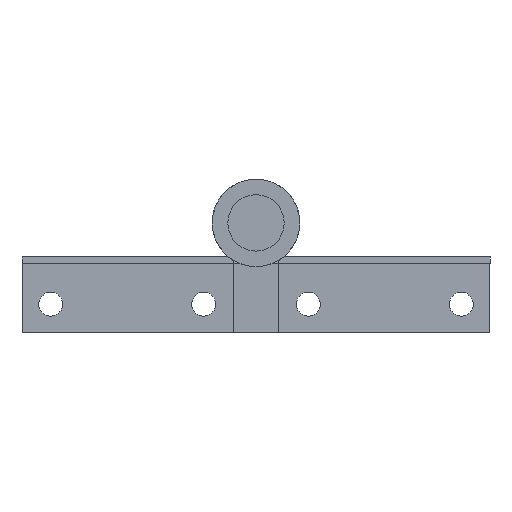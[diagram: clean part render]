
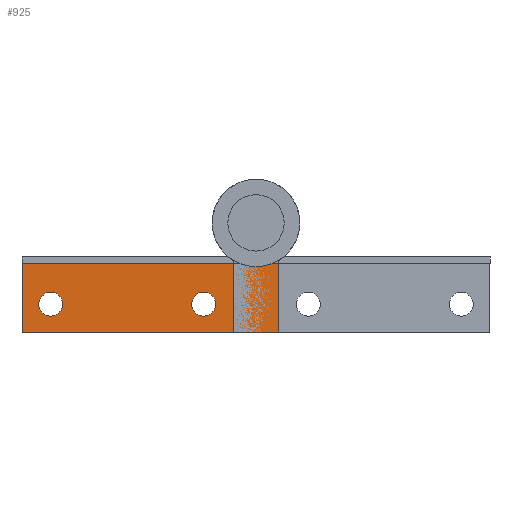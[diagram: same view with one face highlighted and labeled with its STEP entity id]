
A CAD part, front view. The second image highlights one B-rep face of the part: STEP entity #925.
In plain terms, the highlighted planar face has unit normal (0, -1, 0).
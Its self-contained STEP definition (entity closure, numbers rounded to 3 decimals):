
#149 = PLANE ( 'NONE',  #1721 ) ;
#153 = CARTESIAN_POINT ( 'NONE',  ( 9.15, 629.2, -23. ) ) ;
#154 = DIRECTION ( 'NONE',  ( 0., 1., 0. ) ) ;
#155 = DIRECTION ( 'NONE',  ( 1., 0., 0. ) ) ;
#240 = CARTESIAN_POINT ( 'NONE',  ( -42.95, 629.2, -17. ) ) ;
#241 = DIRECTION ( 'NONE',  ( 0., 1., 0. ) ) ;
#242 = DIRECTION ( 'NONE',  ( 1., 0., 0. ) ) ;
#301 = CARTESIAN_POINT ( 'NONE',  ( -10.95, 629.2, -17. ) ) ;
#302 = DIRECTION ( 'NONE',  ( 0., 1., 0. ) ) ;
#303 = DIRECTION ( 'NONE',  ( 1., 0., 0. ) ) ;
#356 = CARTESIAN_POINT ( 'NONE',  ( -48.95, 629.2, -23. ) ) ;
#357 = DIRECTION ( 'NONE',  ( 0., 0., -1. ) ) ;
#398 = CARTESIAN_POINT ( 'NONE',  ( -10.95, 629.2, -17. ) ) ;
#409 = DIRECTION ( 'NONE',  ( 0., 1., 0. ) ) ;
#410 = DIRECTION ( 'NONE',  ( 1., 0., 0. ) ) ;
#416 = CARTESIAN_POINT ( 'NONE',  ( 9.15, 629.2, -23. ) ) ;
#417 = DIRECTION ( 'NONE',  ( -1., 0., 0. ) ) ;
#442 = CARTESIAN_POINT ( 'NONE',  ( -42.95, 629.2, -17. ) ) ;
#458 = DIRECTION ( 'NONE',  ( 0., 1., 0. ) ) ;
#459 = DIRECTION ( 'NONE',  ( 1., 0., 0. ) ) ;
#466 = CARTESIAN_POINT ( 'NONE',  ( 9.15, 629.2, -8.5 ) ) ;
#467 = DIRECTION ( 'NONE',  ( -1., 0., 0. ) ) ;
#493 = CARTESIAN_POINT ( 'NONE',  ( 4.75, 629.2, -23. ) ) ;
#501 = DIRECTION ( 'NONE',  ( 0., 0., -1. ) ) ;
#620 = CARTESIAN_POINT ( 'NONE',  ( -8.45, 629.2, -17. ) ) ;
#653 = CARTESIAN_POINT ( 'NONE',  ( 4.75, 629.2, -23. ) ) ;
#656 = CARTESIAN_POINT ( 'NONE',  ( 4.75, 629.2, -8.5 ) ) ;
#674 = CARTESIAN_POINT ( 'NONE',  ( -13.45, 629.2, -17. ) ) ;
#677 = CARTESIAN_POINT ( 'NONE',  ( -48.95, 629.2, -8.5 ) ) ;
#679 = CARTESIAN_POINT ( 'NONE',  ( -48.95, 629.2, -23. ) ) ;
#684 = CARTESIAN_POINT ( 'NONE',  ( -45.45, 629.2, -17. ) ) ;
#728 = VERTEX_POINT ( 'NONE', #839 ) ;
#774 = VERTEX_POINT ( 'NONE', #684 ) ;
#779 = VERTEX_POINT ( 'NONE', #679 ) ;
#781 = VERTEX_POINT ( 'NONE', #677 ) ;
#784 = VERTEX_POINT ( 'NONE', #674 ) ;
#802 = VERTEX_POINT ( 'NONE', #656 ) ;
#805 = VERTEX_POINT ( 'NONE', #653 ) ;
#838 = VERTEX_POINT ( 'NONE', #620 ) ;
#839 = CARTESIAN_POINT ( 'NONE',  ( -40.45, 629.2, -17. ) ) ;
#925 = ADVANCED_FACE ( 'NONE', ( #1341, #1340, #1338 ), #149, .F. ) ;
#963 = EDGE_CURVE ( 'NONE', #774, #728, #1271, .T. ) ;
#987 = EDGE_CURVE ( 'NONE', #838, #784, #1237, .T. ) ;
#1090 = VECTOR ( 'NONE', #501, 1000. ) ;
#1092 = LINE ( 'NONE', #493, #1090 ) ;
#1116 = VECTOR ( 'NONE', #467, 1000. ) ;
#1117 = LINE ( 'NONE', #466, #1116 ) ;
#1122 = CIRCLE ( 'NONE', #1665, 2.5 ) ;
#1166 = CIRCLE ( 'NONE', #1561, 2.5 ) ;
#1167 = VECTOR ( 'NONE', #417, 1000. ) ;
#1174 = LINE ( 'NONE', #416, #1167 ) ;
#1201 = VECTOR ( 'NONE', #357, 1000. ) ;
#1202 = LINE ( 'NONE', #356, #1201 ) ;
#1237 = CIRCLE ( 'NONE', #1641, 2.5 ) ;
#1271 = CIRCLE ( 'NONE', #1668, 2.5 ) ;
#1338 = FACE_OUTER_BOUND ( 'NONE', #2091, .T. ) ;
#1340 = FACE_BOUND ( 'NONE', #2090, .T. ) ;
#1341 = FACE_BOUND ( 'NONE', #2088, .T. ) ;
#1561 = AXIS2_PLACEMENT_3D ( 'NONE', #398, #409, #410 ) ;
#1578 = EDGE_CURVE ( 'NONE', #781, #779, #1202, .T. ) ;
#1627 = EDGE_CURVE ( 'NONE', #784, #838, #1166, .T. ) ;
#1630 = EDGE_CURVE ( 'NONE', #805, #779, #1174, .T. ) ;
#1641 = AXIS2_PLACEMENT_3D ( 'NONE', #301, #302, #303 ) ;
#1665 = AXIS2_PLACEMENT_3D ( 'NONE', #442, #458, #459 ) ;
#1668 = AXIS2_PLACEMENT_3D ( 'NONE', #240, #241, #242 ) ;
#1678 = EDGE_CURVE ( 'NONE', #728, #774, #1122, .T. ) ;
#1682 = EDGE_CURVE ( 'NONE', #802, #781, #1117, .T. ) ;
#1709 = EDGE_CURVE ( 'NONE', #802, #805, #1092, .T. ) ;
#1721 = AXIS2_PLACEMENT_3D ( 'NONE', #153, #154, #155 ) ;
#1835 = ORIENTED_EDGE ( 'NONE', *, *, #1627, .T. ) ;
#1836 = ORIENTED_EDGE ( 'NONE', *, *, #987, .T. ) ;
#1837 = ORIENTED_EDGE ( 'NONE', *, *, #963, .T. ) ;
#1838 = ORIENTED_EDGE ( 'NONE', *, *, #1678, .T. ) ;
#1839 = ORIENTED_EDGE ( 'NONE', *, *, #1682, .T. ) ;
#1840 = ORIENTED_EDGE ( 'NONE', *, *, #1578, .T. ) ;
#1841 = ORIENTED_EDGE ( 'NONE', *, *, #1630, .F. ) ;
#1842 = ORIENTED_EDGE ( 'NONE', *, *, #1709, .F. ) ;
#2088 = EDGE_LOOP ( 'NONE', ( #1835, #1836 ) ) ;
#2090 = EDGE_LOOP ( 'NONE', ( #1837, #1838 ) ) ;
#2091 = EDGE_LOOP ( 'NONE', ( #1839, #1840, #1841, #1842 ) ) ;
